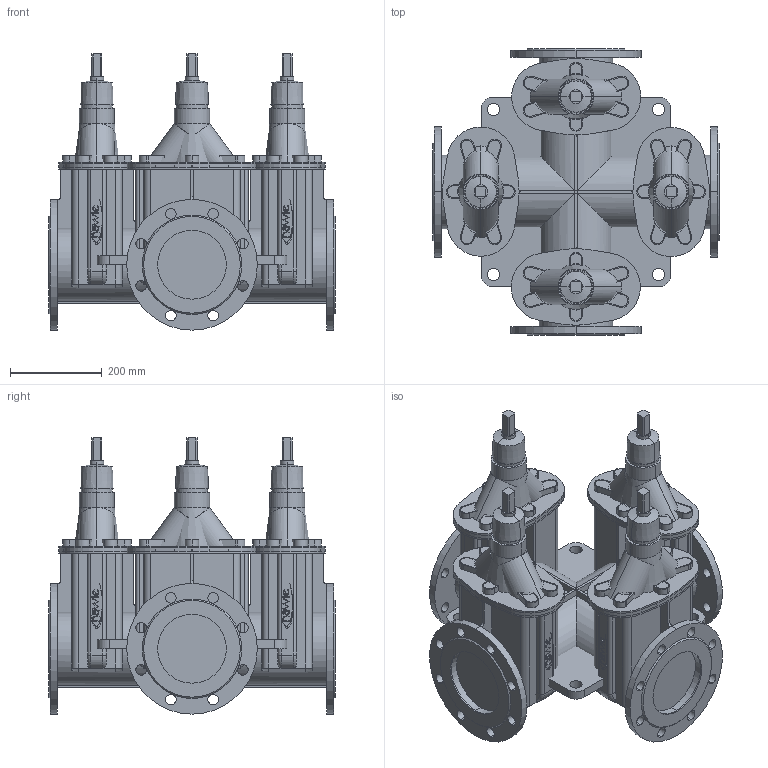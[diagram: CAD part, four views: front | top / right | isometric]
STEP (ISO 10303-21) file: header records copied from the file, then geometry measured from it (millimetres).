
FILE_DESCRIPTION(('STEP AP214'),'1');
FILE_NAME('S:/EK/USER/CAT6/3DHomepage_27-04-2012/neu_23-01-2013/4400E2/4400E2_PN16_DN150_4.STP','2013-01-23T14:50:31',(' '),(' '),'Spatial InterOp 3D',' ',' ');
FILE_SCHEMA(('automotive_design'));
Length unit declared in the file: millimetre
Products named in the file (202): 3D-Objekt
Bounding box: 625 x 625 x 602.5 mm (x, y, z)
Volume: 61445081.1 mm3; surface area: 4651180.8 mm2
Topology: 202 solids, 202 shells, 1842 faces, 4280 edges, 2850 vertices
Faces by surface type: plane 1018, cylinder 760, cone 32, torus 16, bspline 16
Entity records: 72684 total; most frequent: DIRECTION 9996, CARTESIAN_POINT 9446, ORIENTED_EDGE 8560, EDGE_CURVE 4280, AXIS2_PLACEMENT_3D 3688, VERTEX_POINT 2850, LINE 2620, VECTOR 2620
